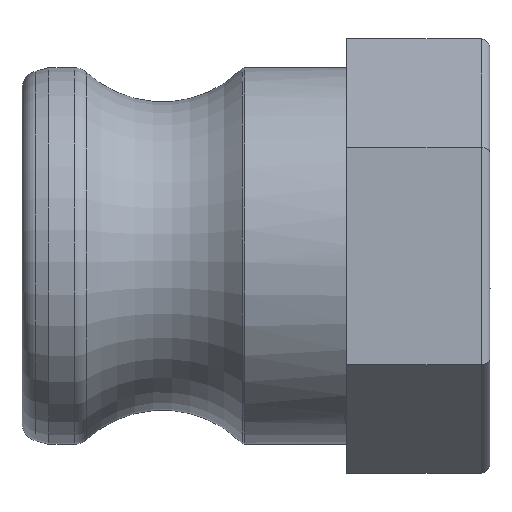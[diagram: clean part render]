
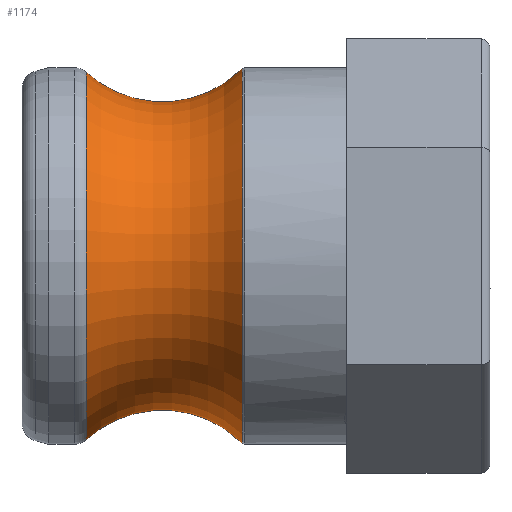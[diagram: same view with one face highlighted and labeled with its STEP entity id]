
A CAD part, front view. The second image highlights one B-rep face of the part: STEP entity #1174.
In plain terms, the highlighted toroidal (fillet/blend) face has major radius 22.746 mm and minor radius 9.601 mm.
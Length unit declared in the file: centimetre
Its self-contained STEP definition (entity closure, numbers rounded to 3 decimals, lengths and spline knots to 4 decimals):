
#105=TOROIDAL_SURFACE('',#1256,2.2746,0.9601);
#417=VERTEX_POINT('',#23799);
#418=VERTEX_POINT('',#23803);
#441=CIRCLE('',#1254,1.5962);
#442=CIRCLE('',#1257,1.5654);
#608=EDGE_CURVE('',#417,#417,#441,.T.);
#609=EDGE_CURVE('',#418,#418,#442,.T.);
#939=ORIENTED_EDGE('',*,*,#609,.F.);
#940=ORIENTED_EDGE('',*,*,#608,.F.);
#1020=EDGE_LOOP('',(#939));
#1021=EDGE_LOOP('',(#940));
#1101=FACE_BOUND('',#1020,.T.);
#1102=FACE_BOUND('',#1021,.T.);
#1174=ADVANCED_FACE('',(#1101,#1102),#105,.F.);
#1254=AXIS2_PLACEMENT_3D('',#23798,#24001,#24002);
#1256=AXIS2_PLACEMENT_3D('',#23801,#24005,$);
#1257=AXIS2_PLACEMENT_3D('',#23802,#24006,#24007);
#23798=CARTESIAN_POINT('',(-0.8928,0.,0.));
#23799=CARTESIAN_POINT('',(-0.8928,1.5953,0.0549));
#23801=CARTESIAN_POINT('',(-1.5723,0.,0.));
#23802=CARTESIAN_POINT('',(-2.2195,0.,0.));
#23803=CARTESIAN_POINT('',(-2.2195,1.5645,0.0538));
#24001=DIRECTION('',(1.,0.,0.));
#24002=DIRECTION('',(0.,-1.595,-0.055));
#24005=DIRECTION('',(-1.,0.,0.));
#24006=DIRECTION('',(-1.,0.,0.));
#24007=DIRECTION('',(0.,1.565,0.054));
